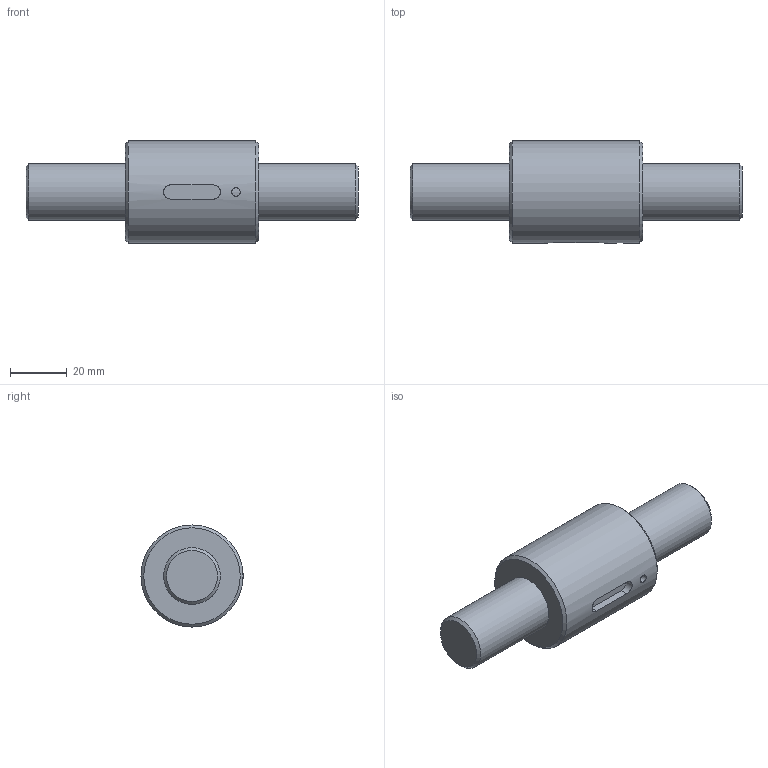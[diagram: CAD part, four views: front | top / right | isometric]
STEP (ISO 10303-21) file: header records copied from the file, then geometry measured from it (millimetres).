
FILE_DESCRIPTION (( 'STEP AP203' ), '1' );
FILE_NAME ('SCNH2005.STEP', '2023-08-16T07:50:18', ( '' ), ( '' ), 'SwSTEP 2.0', 'SolidWorks 2022', '' );
FILE_SCHEMA (( 'CONFIG_CONTROL_DESIGN' ));
Length unit declared in the file: millimetre
Products named in the file (1): SCNH2005
Bounding box: 117 x 36 x 36 mm (x, y, z)
Volume: 69324.3 mm3; surface area: 17636.1 mm2
Topology: 2 solids, 2 shells, 18 faces, 39 edges, 26 vertices
Faces by surface type: plane 7, cylinder 5, cone 4, bspline 2
Full cylindrical faces by diameter (mm): 20 x2, 36 x1
Entity records: 775 total; most frequent: CARTESIAN_POINT 335, DIRECTION 68, ORIENTED_EDGE 64, EDGE_CURVE 32, EDGE_LOOP 30, AXIS2_PLACEMENT_3D 29, VERTEX_POINT 26, FACE_OUTER_BOUND 21
